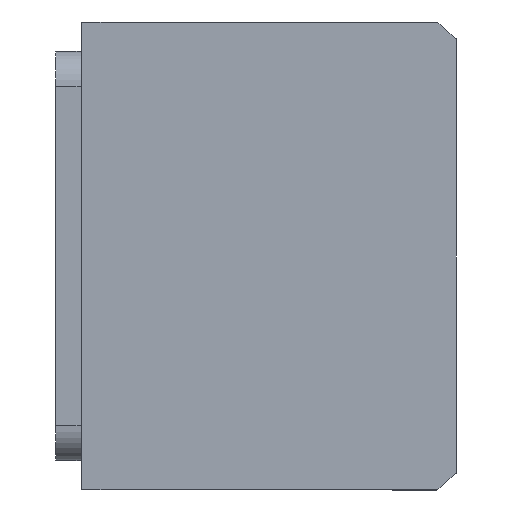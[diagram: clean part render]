
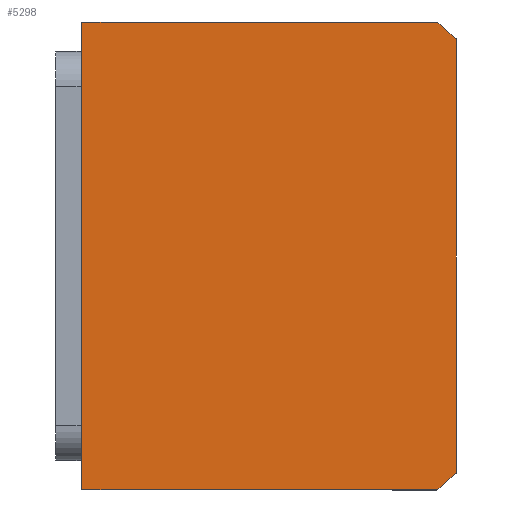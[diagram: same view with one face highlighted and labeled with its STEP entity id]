
A CAD part, front view. The second image highlights one B-rep face of the part: STEP entity #5298.
In plain terms, the highlighted planar face has unit normal (0, -1, 0) as drawn and (0, 0, -1) by its records, which use the part's own axes.
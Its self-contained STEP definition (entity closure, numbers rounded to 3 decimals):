
#185 = DIRECTION ( 'NONE',  ( 1., 0., 0. ) ) ;
#281 = CARTESIAN_POINT ( 'NONE',  ( 0., 0., 0. ) ) ;
#319 = CARTESIAN_POINT ( 'NONE',  ( 37.094, -75.507, 0. ) ) ;
#339 = CARTESIAN_POINT ( 'NONE',  ( -40., -75.507, 0. ) ) ;
#606 = DIRECTION ( 'NONE',  ( 0., -1., 0. ) ) ;
#790 = CARTESIAN_POINT ( 'NONE',  ( -37.094, -75.507, 0. ) ) ;
#918 = DIRECTION ( 'NONE',  ( 1., 0., 0. ) ) ;
#1194 = DIRECTION ( 'NONE',  ( 0., 1., 0. ) ) ;
#1579 = LINE ( 'NONE', #10723, #12868 ) ;
#1689 = EDGE_CURVE ( 'NONE', #8882, #5398, #4351, .T. ) ;
#1889 = VECTOR ( 'NONE', #12036, 1000. ) ;
#2011 = AXIS2_PLACEMENT_3D ( 'NONE', #13628, #7243, #918 ) ;
#2393 = PLANE ( 'NONE',  #12850 ) ;
#2451 = CARTESIAN_POINT ( 'NONE',  ( 40., -72.145, 0. ) ) ;
#2609 = ORIENTED_EDGE ( 'NONE', *, *, #4257, .F. ) ;
#2713 = EDGE_LOOP ( 'NONE', ( #4228, #4874, #13726, #10415, #2609, #3285 ) ) ;
#2768 = CARTESIAN_POINT ( 'NONE',  ( -40., -11.507, 0. ) ) ;
#3285 = ORIENTED_EDGE ( 'NONE', *, *, #1689, .F. ) ;
#3455 = DIRECTION ( 'NONE',  ( 1., 0., 0. ) ) ;
#3479 = VERTEX_POINT ( 'NONE', #13612 ) ;
#3769 = CARTESIAN_POINT ( 'NONE',  ( -40., -11.507, 0. ) ) ;
#4228 = ORIENTED_EDGE ( 'NONE', *, *, #5215, .F. ) ;
#4257 = EDGE_CURVE ( 'NONE', #5398, #7785, #10547, .T. ) ;
#4299 = AXIS2_PLACEMENT_3D ( 'NONE', #12882, #6499, #185 ) ;
#4351 = LINE ( 'NONE', #339, #1889 ) ;
#4457 = VERTEX_POINT ( 'NONE', #8593 ) ;
#4490 = EDGE_CURVE ( 'NONE', #7785, #4457, #1579, .T. ) ;
#4874 = ORIENTED_EDGE ( 'NONE', *, *, #13070, .F. ) ;
#5215 = EDGE_CURVE ( 'NONE', #3479, #8882, #9058, .T. ) ;
#5298 = ADVANCED_FACE ( 'NONE', ( #8716 ), #2393, .F. ) ;
#5398 = VERTEX_POINT ( 'NONE', #319 ) ;
#5922 = DIRECTION ( 'NONE',  ( -1., 0., 0. ) ) ;
#5998 = VECTOR ( 'NONE', #606, 1000. ) ;
#6412 = VERTEX_POINT ( 'NONE', #12476 ) ;
#6499 = DIRECTION ( 'NONE',  ( 0., 0., 1. ) ) ;
#6914 = EDGE_CURVE ( 'NONE', #4457, #6412, #11149, .T. ) ;
#7243 = DIRECTION ( 'NONE',  ( 0., 0., 1. ) ) ;
#7785 = VERTEX_POINT ( 'NONE', #2451 ) ;
#8328 = VECTOR ( 'NONE', #5922, 1000. ) ;
#8593 = CARTESIAN_POINT ( 'NONE',  ( 40., -11.507, 0. ) ) ;
#8716 = FACE_OUTER_BOUND ( 'NONE', #2713, .T. ) ;
#8882 = VERTEX_POINT ( 'NONE', #790 ) ;
#9058 = CIRCLE ( 'NONE', #4299, 51. ) ;
#9801 = DIRECTION ( 'NONE',  ( 0., 0., 1. ) ) ;
#10415 = ORIENTED_EDGE ( 'NONE', *, *, #4490, .F. ) ;
#10547 = CIRCLE ( 'NONE', #2011, 51. ) ;
#10723 = CARTESIAN_POINT ( 'NONE',  ( 40., -11.507, 0. ) ) ;
#11149 = LINE ( 'NONE', #2768, #8328 ) ;
#11333 = LINE ( 'NONE', #3769, #5998 ) ;
#12036 = DIRECTION ( 'NONE',  ( 1., 0., 0. ) ) ;
#12476 = CARTESIAN_POINT ( 'NONE',  ( -40., -11.507, 0. ) ) ;
#12850 = AXIS2_PLACEMENT_3D ( 'NONE', #281, #9801, #3455 ) ;
#12868 = VECTOR ( 'NONE', #1194, 1000. ) ;
#12882 = CARTESIAN_POINT ( 'NONE',  ( 0., -40.507, 0. ) ) ;
#13070 = EDGE_CURVE ( 'NONE', #6412, #3479, #11333, .T. ) ;
#13612 = CARTESIAN_POINT ( 'NONE',  ( -40., -72.145, 0. ) ) ;
#13628 = CARTESIAN_POINT ( 'NONE',  ( 0., -40.507, 0. ) ) ;
#13726 = ORIENTED_EDGE ( 'NONE', *, *, #6914, .F. ) ;
